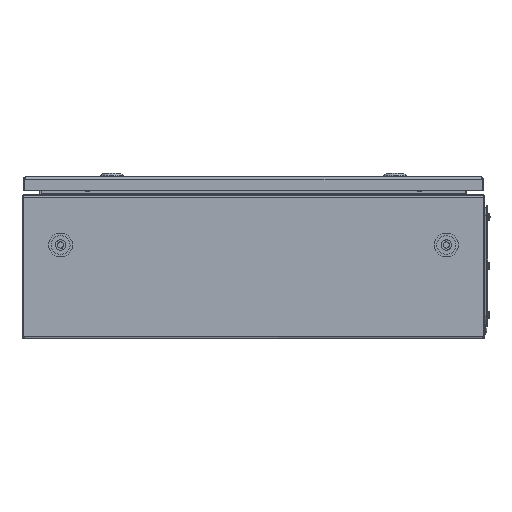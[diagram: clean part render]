
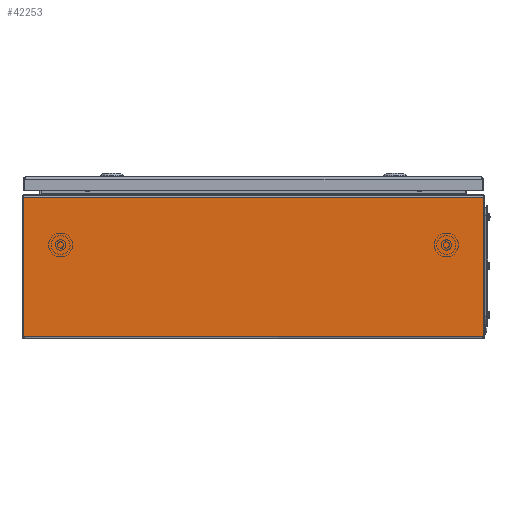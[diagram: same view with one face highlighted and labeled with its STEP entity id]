
A CAD part, left-side view. The second image highlights one B-rep face of the part: STEP entity #42253.
In plain terms, the highlighted planar face has unit normal (-1, 0, 0).
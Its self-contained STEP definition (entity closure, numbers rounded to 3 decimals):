
#522 = CARTESIAN_POINT ( 'NONE',  ( -300., -298.423, 183.85 ) ) ;
#1332 = CARTESIAN_POINT ( 'NONE',  ( -300., 298.529, 183.85 ) ) ;
#3048 = VERTEX_POINT ( 'NONE', #3810 ) ;
#3713 = VECTOR ( 'NONE', #11121, 1000. ) ;
#3752 = DIRECTION ( 'NONE',  ( 0., 1., 0. ) ) ;
#3810 = CARTESIAN_POINT ( 'NONE',  ( -300., -298.529, 183.85 ) ) ;
#4769 = DIRECTION ( 'NONE',  ( 0., -1., 0. ) ) ;
#4898 = DIRECTION ( 'NONE',  ( 0., -1., 0. ) ) ;
#5215 = CARTESIAN_POINT ( 'NONE',  ( -300., 298.423, 183.85 ) ) ;
#6266 = VERTEX_POINT ( 'NONE', #522 ) ;
#6824 = VERTEX_POINT ( 'NONE', #6850 ) ;
#6850 = CARTESIAN_POINT ( 'NONE',  ( -300., 298.423, 2.9 ) ) ;
#7147 = CARTESIAN_POINT ( 'NONE',  ( -300., -298.423, 2.9 ) ) ;
#9013 = LINE ( 'NONE', #25619, #41098 ) ;
#9607 = CARTESIAN_POINT ( 'NONE',  ( -300., -298.529, 2.9 ) ) ;
#10493 = DIRECTION ( 'NONE',  ( 1., 0., 0. ) ) ;
#11121 = DIRECTION ( 'NONE',  ( 0., 1., 0. ) ) ;
#12531 = CARTESIAN_POINT ( 'NONE',  ( -300., -298.529, 2.9 ) ) ;
#13533 = CARTESIAN_POINT ( 'NONE',  ( -300., -298.423, 2.9 ) ) ;
#13822 = ORIENTED_EDGE ( 'NONE', *, *, #36096, .F. ) ;
#14046 = ORIENTED_EDGE ( 'NONE', *, *, #31476, .T. ) ;
#14098 = EDGE_CURVE ( 'NONE', #49711, #6824, #28511, .T. ) ;
#14480 = VECTOR ( 'NONE', #29900, 1000. ) ;
#15477 = VERTEX_POINT ( 'NONE', #39218 ) ;
#15873 = ORIENTED_EDGE ( 'NONE', *, *, #23003, .T. ) ;
#17827 = CARTESIAN_POINT ( 'NONE',  ( -300., -3300., 183.85 ) ) ;
#18328 = VERTEX_POINT ( 'NONE', #5215 ) ;
#19216 = CARTESIAN_POINT ( 'NONE',  ( -300., -3300., 183.85 ) ) ;
#20417 = VERTEX_POINT ( 'NONE', #1332 ) ;
#21209 = LINE ( 'NONE', #25517, #14480 ) ;
#21514 = ORIENTED_EDGE ( 'NONE', *, *, #37369, .T. ) ;
#22968 = LINE ( 'NONE', #17827, #27074 ) ;
#23003 = EDGE_CURVE ( 'NONE', #47017, #3048, #50346, .T. ) ;
#25517 = CARTESIAN_POINT ( 'NONE',  ( -300., -298.529, 183.85 ) ) ;
#25619 = CARTESIAN_POINT ( 'NONE',  ( -300., 298.529, 183.85 ) ) ;
#27060 = DIRECTION ( 'NONE',  ( 0., 0., -1. ) ) ;
#27074 = VECTOR ( 'NONE', #34407, 1000. ) ;
#28511 = LINE ( 'NONE', #40471, #3713 ) ;
#29900 = DIRECTION ( 'NONE',  ( 0., 1., 0. ) ) ;
#30345 = ORIENTED_EDGE ( 'NONE', *, *, #49459, .T. ) ;
#30457 = EDGE_CURVE ( 'NONE', #6824, #15477, #32388, .T. ) ;
#31476 = EDGE_CURVE ( 'NONE', #6266, #18328, #22968, .T. ) ;
#32388 = LINE ( 'NONE', #36719, #44423 ) ;
#34407 = DIRECTION ( 'NONE',  ( 0., 1., 0. ) ) ;
#36096 = EDGE_CURVE ( 'NONE', #15477, #20417, #49574, .T. ) ;
#36649 = ORIENTED_EDGE ( 'NONE', *, *, #14098, .F. ) ;
#36719 = CARTESIAN_POINT ( 'NONE',  ( -300., 298.423, 2.9 ) ) ;
#37015 = DIRECTION ( 'NONE',  ( 0., 0., 1. ) ) ;
#37369 = EDGE_CURVE ( 'NONE', #49711, #47017, #42079, .T. ) ;
#37435 = ORIENTED_EDGE ( 'NONE', *, *, #44166, .F. ) ;
#39218 = CARTESIAN_POINT ( 'NONE',  ( -300., 298.529, 2.9 ) ) ;
#40127 = FACE_OUTER_BOUND ( 'NONE', #53456, .T. ) ;
#40471 = CARTESIAN_POINT ( 'NONE',  ( -300., -3300., 2.9 ) ) ;
#41098 = VECTOR ( 'NONE', #4898, 1000. ) ;
#42079 = LINE ( 'NONE', #13533, #42855 ) ;
#42253 = ADVANCED_FACE ( 'NONE', ( #40127 ), #52685, .F. ) ;
#42855 = VECTOR ( 'NONE', #4769, 1000. ) ;
#44166 = EDGE_CURVE ( 'NONE', #20417, #18328, #9013, .T. ) ;
#44188 = VECTOR ( 'NONE', #37015, 1000. ) ;
#44423 = VECTOR ( 'NONE', #3752, 1000. ) ;
#45700 = AXIS2_PLACEMENT_3D ( 'NONE', #19216, #10493, #27060 ) ;
#45933 = ORIENTED_EDGE ( 'NONE', *, *, #30457, .F. ) ;
#46413 = VECTOR ( 'NONE', #50390, 1000. ) ;
#47017 = VERTEX_POINT ( 'NONE', #9607 ) ;
#49459 = EDGE_CURVE ( 'NONE', #3048, #6266, #21209, .T. ) ;
#49574 = LINE ( 'NONE', #50665, #46413 ) ;
#49711 = VERTEX_POINT ( 'NONE', #7147 ) ;
#50346 = LINE ( 'NONE', #12531, #44188 ) ;
#50390 = DIRECTION ( 'NONE',  ( 0., 0., 1. ) ) ;
#50665 = CARTESIAN_POINT ( 'NONE',  ( -300., 298.529, 2.9 ) ) ;
#52685 = PLANE ( 'NONE',  #45700 ) ;
#53456 = EDGE_LOOP ( 'NONE', ( #14046, #37435, #13822, #45933, #36649, #21514, #15873, #30345 ) ) ;
